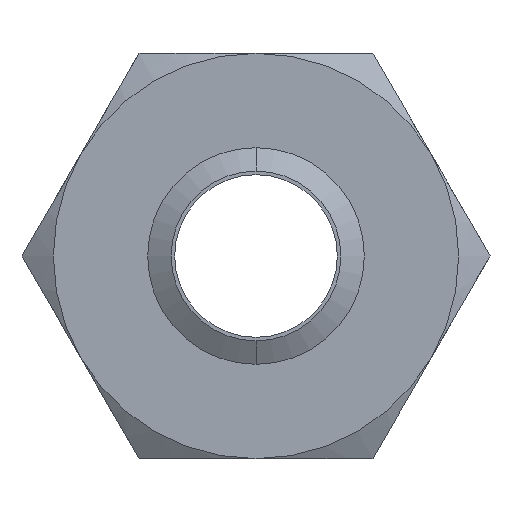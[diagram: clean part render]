
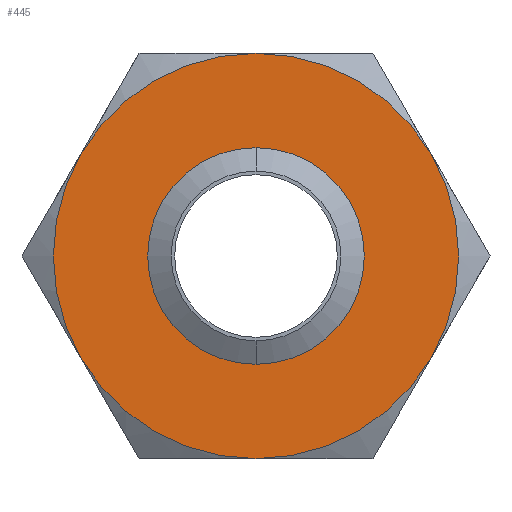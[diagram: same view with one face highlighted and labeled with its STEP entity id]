
A CAD part, front view. The second image highlights one B-rep face of the part: STEP entity #445.
In plain terms, the highlighted planar face has unit normal (0, -1, 0).
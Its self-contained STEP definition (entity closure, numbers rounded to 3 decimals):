
#156 = EDGE_CURVE ( 'NONE', #1967, #1968, #439, .T. ) ;
#157 = ORIENTED_EDGE ( 'NONE', *, *, #156, .F. ) ;
#159 = EDGE_LOOP ( 'NONE', ( #157, #2028, #2014, #1969, #1994, #2057 ) ) ;
#431 = DIRECTION ( 'NONE',  ( 0., 0., 1. ) ) ;
#432 = DIRECTION ( 'NONE',  ( 0., 1., 0. ) ) ;
#433 = CARTESIAN_POINT ( 'NONE',  ( 0., 0., 0. ) ) ;
#434 = AXIS2_PLACEMENT_3D ( 'NONE', #433, #432, #431 ) ;
#439 = CIRCLE ( 'NONE', #434, 47.5 ) ;
#445 = ADVANCED_FACE ( 'NONE', ( #496, #492 ), #491, .F. ) ;
#460 = ORIENTED_EDGE ( 'NONE', *, *, #1853, .F. ) ;
#487 = DIRECTION ( 'NONE',  ( 0., 0., 1. ) ) ;
#488 = DIRECTION ( 'NONE',  ( 0., 1., 0. ) ) ;
#489 = CARTESIAN_POINT ( 'NONE',  ( 27.424, 0., -47.5 ) ) ;
#490 = AXIS2_PLACEMENT_3D ( 'NONE', #489, #488, #487 ) ;
#491 = PLANE ( 'NONE',  #490 ) ;
#492 = FACE_BOUND ( 'NONE', #939, .T. ) ;
#496 = FACE_OUTER_BOUND ( 'NONE', #159, .T. ) ;
#521 = DIRECTION ( 'NONE',  ( 0., 0., -1. ) ) ;
#522 = DIRECTION ( 'NONE',  ( 0., -1., 0. ) ) ;
#523 = CARTESIAN_POINT ( 'NONE',  ( 0., 0., 0. ) ) ;
#524 = AXIS2_PLACEMENT_3D ( 'NONE', #523, #522, #521 ) ;
#525 = CIRCLE ( 'NONE', #524, 19.901 ) ;
#939 = EDGE_LOOP ( 'NONE', ( #460, #1583 ) ) ;
#981 = CARTESIAN_POINT ( 'NONE',  ( 0., 0., 19.901 ) ) ;
#982 = CARTESIAN_POINT ( 'NONE',  ( 0., 0., -19.901 ) ) ;
#983 = DIRECTION ( 'NONE',  ( 0., 0., -1. ) ) ;
#984 = DIRECTION ( 'NONE',  ( 0., -1., 0. ) ) ;
#985 = CARTESIAN_POINT ( 'NONE',  ( 0., 0., 0. ) ) ;
#986 = AXIS2_PLACEMENT_3D ( 'NONE', #985, #984, #983 ) ;
#987 = CIRCLE ( 'NONE', #986, 19.901 ) ;
#1317 = CARTESIAN_POINT ( 'NONE',  ( 0., 0., -47.5 ) ) ;
#1318 = CARTESIAN_POINT ( 'NONE',  ( 41.136, 0., 23.75 ) ) ;
#1323 = CARTESIAN_POINT ( 'NONE',  ( 0., 0., 47.5 ) ) ;
#1324 = DIRECTION ( 'NONE',  ( 0., 0., 1. ) ) ;
#1325 = DIRECTION ( 'NONE',  ( 0., 1., 0. ) ) ;
#1326 = CARTESIAN_POINT ( 'NONE',  ( 0., 0., 0. ) ) ;
#1327 = AXIS2_PLACEMENT_3D ( 'NONE', #1326, #1325, #1324 ) ;
#1328 = CIRCLE ( 'NONE', #1327, 47.5 ) ;
#1329 = CARTESIAN_POINT ( 'NONE',  ( 41.136, 0., -23.75 ) ) ;
#1358 = DIRECTION ( 'NONE',  ( 0., 1., 0. ) ) ;
#1359 = CARTESIAN_POINT ( 'NONE',  ( 0., 0., 0. ) ) ;
#1360 = AXIS2_PLACEMENT_3D ( 'NONE', #1359, #1358, #1832 ) ;
#1361 = CIRCLE ( 'NONE', #1360, 47.5 ) ;
#1362 = DIRECTION ( 'NONE',  ( 0., 0., 1. ) ) ;
#1363 = DIRECTION ( 'NONE',  ( 0., 1., 0. ) ) ;
#1364 = CARTESIAN_POINT ( 'NONE',  ( 0., 0., 0. ) ) ;
#1365 = AXIS2_PLACEMENT_3D ( 'NONE', #1364, #1363, #1362 ) ;
#1366 = CIRCLE ( 'NONE', #1365, 47.5 ) ;
#1402 = DIRECTION ( 'NONE',  ( 0., 0., 1. ) ) ;
#1403 = DIRECTION ( 'NONE',  ( 0., 1., 0. ) ) ;
#1404 = CARTESIAN_POINT ( 'NONE',  ( 0., 0., 0. ) ) ;
#1405 = AXIS2_PLACEMENT_3D ( 'NONE', #1404, #1403, #1402 ) ;
#1406 = CIRCLE ( 'NONE', #1405, 47.5 ) ;
#1417 = CARTESIAN_POINT ( 'NONE',  ( -41.136, 0., -23.75 ) ) ;
#1418 = CARTESIAN_POINT ( 'NONE',  ( -41.136, 0., 23.75 ) ) ;
#1461 = DIRECTION ( 'NONE',  ( 0., 0., 1. ) ) ;
#1462 = DIRECTION ( 'NONE',  ( 0., 1., 0. ) ) ;
#1463 = CARTESIAN_POINT ( 'NONE',  ( 0., 0., 0. ) ) ;
#1464 = AXIS2_PLACEMENT_3D ( 'NONE', #1463, #1462, #1461 ) ;
#1465 = CIRCLE ( 'NONE', #1464, 47.5 ) ;
#1583 = ORIENTED_EDGE ( 'NONE', *, *, #1584, .F. ) ;
#1584 = EDGE_CURVE ( 'NONE', #1856, #1855, #525, .T. ) ;
#1832 = DIRECTION ( 'NONE',  ( 0., 0., 1. ) ) ;
#1853 = EDGE_CURVE ( 'NONE', #1855, #1856, #987, .T. ) ;
#1855 = VERTEX_POINT ( 'NONE', #982 ) ;
#1856 = VERTEX_POINT ( 'NONE', #981 ) ;
#1967 = VERTEX_POINT ( 'NONE', #1323 ) ;
#1968 = VERTEX_POINT ( 'NONE', #1318 ) ;
#1969 = ORIENTED_EDGE ( 'NONE', *, *, #2010, .F. ) ;
#1970 = VERTEX_POINT ( 'NONE', #1317 ) ;
#1994 = ORIENTED_EDGE ( 'NONE', *, *, #1995, .F. ) ;
#1995 = EDGE_CURVE ( 'NONE', #1996, #1970, #1328, .T. ) ;
#1996 = VERTEX_POINT ( 'NONE', #1329 ) ;
#2010 = EDGE_CURVE ( 'NONE', #1970, #2016, #1366, .T. ) ;
#2013 = EDGE_CURVE ( 'NONE', #2016, #2015, #1361, .T. ) ;
#2014 = ORIENTED_EDGE ( 'NONE', *, *, #2013, .F. ) ;
#2015 = VERTEX_POINT ( 'NONE', #1418 ) ;
#2016 = VERTEX_POINT ( 'NONE', #1417 ) ;
#2026 = EDGE_CURVE ( 'NONE', #2015, #1967, #1406, .T. ) ;
#2028 = ORIENTED_EDGE ( 'NONE', *, *, #2026, .F. ) ;
#2057 = ORIENTED_EDGE ( 'NONE', *, *, #2058, .F. ) ;
#2058 = EDGE_CURVE ( 'NONE', #1968, #1996, #1465, .T. ) ;
